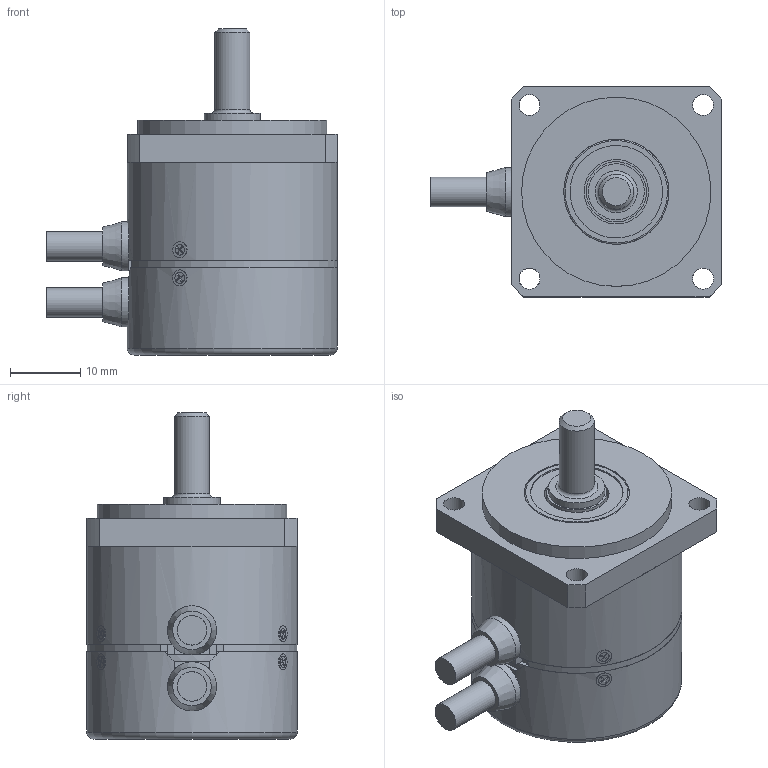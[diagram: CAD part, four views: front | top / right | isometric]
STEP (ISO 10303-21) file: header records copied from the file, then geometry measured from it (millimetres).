
FILE_DESCRIPTION(('STEP AP214'),'1');
FILE_NAME('MDS-3006.stp','2017-10-10T07:15:15',(' '),(' '),'Spatial InterOp 3D',' ',' ');
FILE_SCHEMA(('automotive_design'));
Length unit declared in the file: millimetre
Products named in the file (11): ケーブル; タッピングネジ M1.4x2.2; サラコネジ M1.4x2.5; ｱﾝｷﾞｭﾗﾍﾞｱﾘﾝｸﾞ MTA06-15; ブッシュ; カバー_S; ベース; シャフト_S3006; ケース_3006
Assembly tree (16 placements, depth 2):
  (unnamed)
    ケーブル  x2
    タッピングネジ M1.4x2.2  x3
    サラコネジ M1.4x2.5  x3
    ｱﾝｷﾞｭﾗﾍﾞｱﾘﾝｸﾞ MTA06-15
    ｱﾝｷﾞｭﾗﾍﾞｱﾘﾝｸﾞ MTA06-15
    ブッシュ  x2
    カバー_S
    ベース
    シャフト_S3006
    ケース_3006
Bounding box: 41.49 x 30 x 46.5 mm (x, y, z)
Volume: 10813 mm3; surface area: 16224.1 mm2
Topology: 18 solids, 18 shells, 397 faces, 916 edges, 589 vertices
Faces by surface type: plane 213, cylinder 125, cone 39, torus 17, bspline 3
Full cylindrical faces by diameter (mm): 1.1 x15, 1.4 x12, 1.5 x3, 1.6 x3, 2.3 x6, 3 x4, 4.2 x4, 5 x1, 5.4 x1, 6 x4, 7 x2, 8 x1, 8.6 x6, 9.2 x2, 10 x2, 11.8 x2, 12 x1, 12.6 x2, 13 x1, 13.2 x6, 15 x4, 16 x1, 27 x2, 28 x1, 28.2 x1, 28.9 x1, 29 x1, 30 x2
Entity records: 10134 total; most frequent: CARTESIAN_POINT 1957, DIRECTION 1244, ORIENTED_EDGE 1004, AXIS2_PLACEMENT_3D 505, EDGE_CURVE 502, EDGE_LOOP 423, VERTEX_POINT 378, FACE_OUTER_BOUND 344
